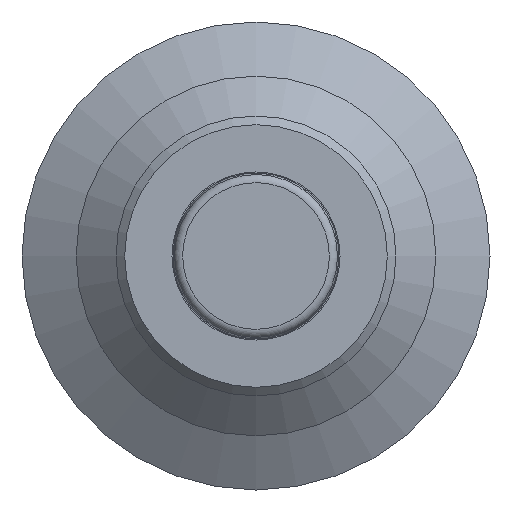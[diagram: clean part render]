
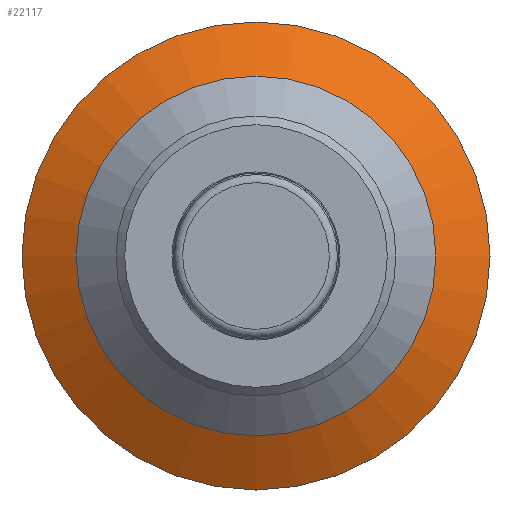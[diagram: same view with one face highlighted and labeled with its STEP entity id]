
A CAD part, front view. The second image highlights one B-rep face of the part: STEP entity #22117.
In plain terms, the highlighted conical face has half-angle 60 degrees and reference radius 11.938 mm.
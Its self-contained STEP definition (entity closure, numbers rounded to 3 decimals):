
#802=CONICAL_SURFACE('',#22914,11.938,1.047);
#2276=FACE_OUTER_BOUND('',#3465,.T.);
#3465=EDGE_LOOP('',(#19744,#19745,#19746,#19747));
#5368=CIRCLE('',#22748,13.5);
#5422=CIRCLE('',#22913,10.375);
#6669=LINE('',#49891,#7913);
#7913=VECTOR('',#25702,11.938);
#9583=VERTEX_POINT('',#40916);
#10057=VERTEX_POINT('',#49887);
#12361=EDGE_CURVE('',#9583,#9583,#5368,.T.);
#13286=EDGE_CURVE('',#10057,#10057,#5422,.T.);
#13288=EDGE_CURVE('',#9583,#10057,#6669,.T.);
#19744=ORIENTED_EDGE('',*,*,#12361,.F.);
#19745=ORIENTED_EDGE('',*,*,#13288,.T.);
#19746=ORIENTED_EDGE('',*,*,#13286,.T.);
#19747=ORIENTED_EDGE('',*,*,#13288,.F.);
#22117=ADVANCED_FACE('',(#2276),#802,.T.);
#22748=AXIS2_PLACEMENT_3D('',#40918,#24896,#24897);
#22913=AXIS2_PLACEMENT_3D('',#49888,#25697,#25698);
#22914=AXIS2_PLACEMENT_3D('',#49890,#25700,#25701);
#24896=DIRECTION('center_axis',(0.,1.,0.));
#24897=DIRECTION('ref_axis',(1.,0.,0.));
#25697=DIRECTION('center_axis',(0.,1.,0.));
#25698=DIRECTION('ref_axis',(1.,0.,0.));
#25700=DIRECTION('center_axis',(0.,1.,0.));
#25701=DIRECTION('ref_axis',(-1.,0.,0.));
#25702=DIRECTION('',(-0.866,-0.5,0.));
#40916=CARTESIAN_POINT('',(13.5,2.804,0.));
#40918=CARTESIAN_POINT('Origin',(0.,2.804,0.));
#49887=CARTESIAN_POINT('',(10.375,1.,0.));
#49888=CARTESIAN_POINT('Origin',(0.,1.,0.));
#49890=CARTESIAN_POINT('Origin',(0.,1.902,0.));
#49891=CARTESIAN_POINT('',(11.938,1.902,0.));
